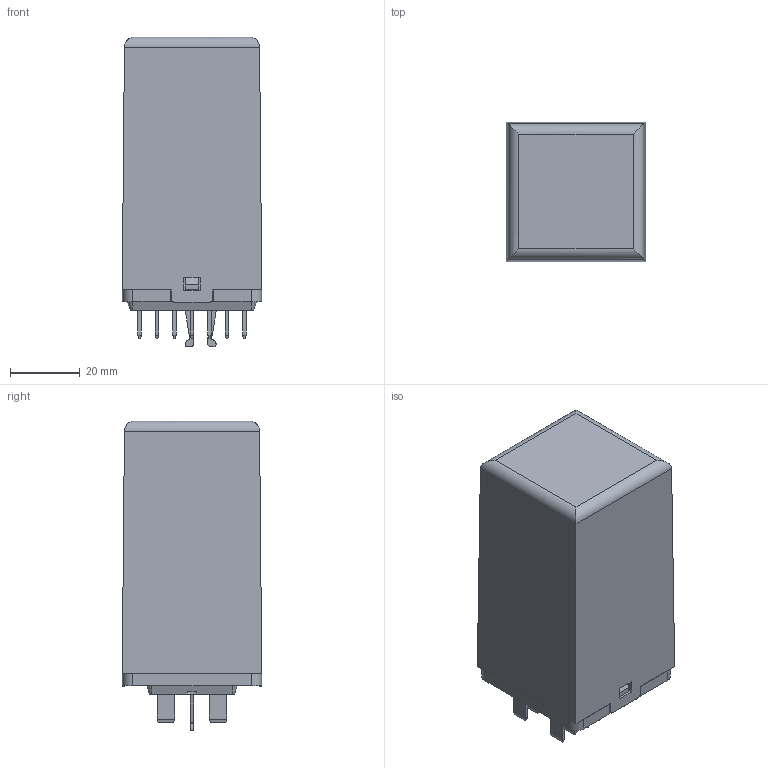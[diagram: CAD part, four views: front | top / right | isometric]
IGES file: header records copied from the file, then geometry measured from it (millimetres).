
Global section: file name: No Iges File Name specified; native system: Autodesk Inventor 2011; preprocessor: AutoDesk Inventor Iges Exporter R2011; author: oey; date: 20110303.140707; units: millimetre
Bounding box: 40 x 40.06 x 88.85 mm (x, y, z)
Volume: 29389 mm3; surface area: 35579 mm2
Topology: 1 solids, 1 shells, 1494 faces, 4272 edges, 2718 vertices
Faces by surface type: plane 768, bspline 391, cylinder 159, revolution 142, sphere 28, cone 4, torus 2
